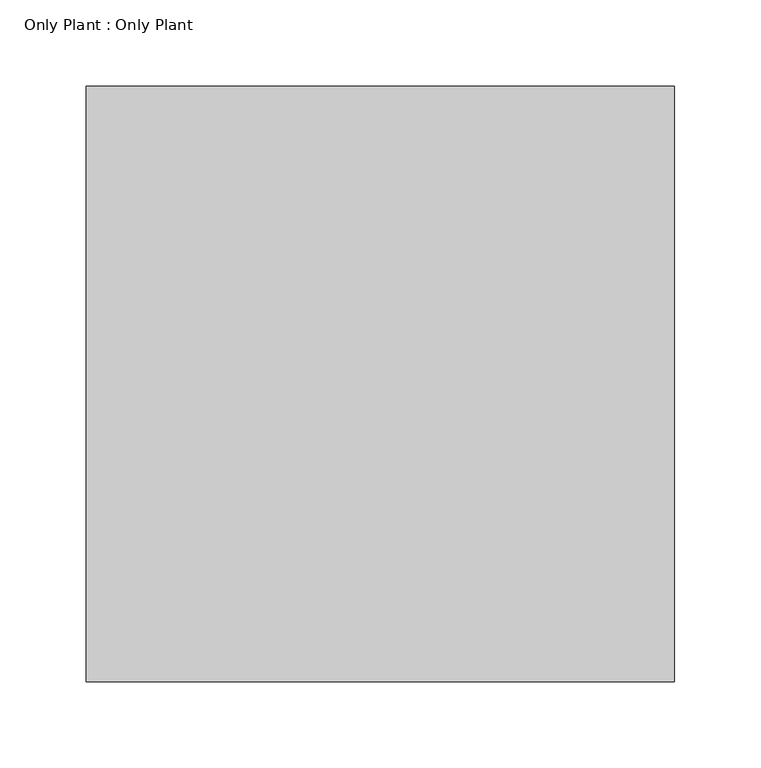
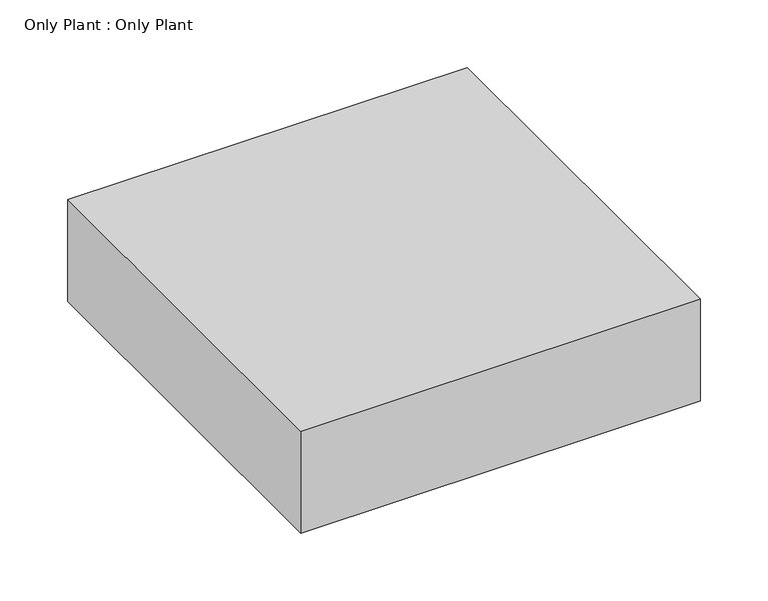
"""IFC4 building model written with IfcOpenShell, lengths in millimetres: geographic element geometry, Only Plant : Only Plant."""

from ifc_helpers import new_model, si_unit, frame, origin, place, context, project, spatial, polyline, outline, extrude, source, transform, mapped, element, save


def only_plant_only_plant_8fcf59e9(model_context):
    return source(origin(), model_context, "Body", "SweptSolid", [
        extrude(outline(polyline([(176.0, 177.9567899), (176.0, -167.0432101), (-164.9599787, -167.0432101), (-164.9599787, 177.9567899), (176.0, 177.9567899)])), frame((0.0, 0.0, 55.75), z_axis=(0.0, 0.0, 1.0), x_axis=(1.0, 0.0, 0.0)), (0.0, 0.0, 1.0), 92.0653484),
    ])


if __name__ == "__main__":
    model = new_model("IFC4")
    model_context = context("Model", 3, world=origin())
    ifc_project = project(units=[si_unit("LENGTHUNIT", "METRE", prefix="MILLI")], contexts=[model_context])
    site = spatial("IfcSite", under=ifc_project)
    building = spatial("IfcBuilding", under=site)
    placement = place(None, origin())
    only_plant_only_plant_shape = only_plant_only_plant_8fcf59e9(model_context)
    element("IfcGeographicElement", 1, ObjectType="Only Plant : Only Plant", at=placement, inside=building, context=model_context, shape_type="MappedRepresentation", body=[
        mapped(only_plant_only_plant_shape, transform((0.0, 0.0, 0.0), x_axis=(1.0, 0.0, 0.0), y_axis=(0.0, 1.0, 0.0), z_axis=(0.0, 0.0, 1.0))),
    ])
    save(model, "model.ifc")
